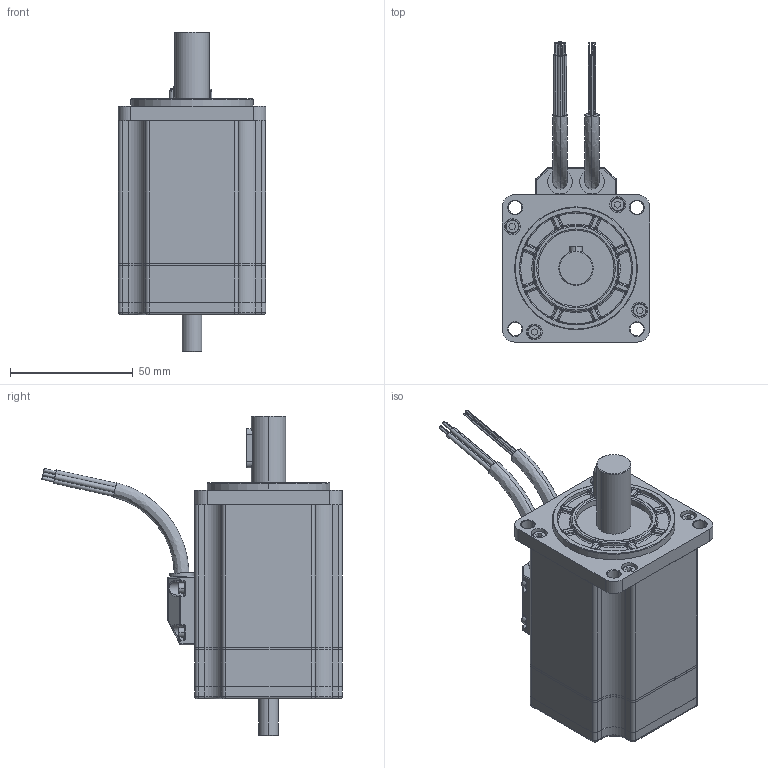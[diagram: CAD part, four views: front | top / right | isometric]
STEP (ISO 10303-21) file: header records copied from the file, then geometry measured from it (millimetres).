
FILE_DESCRIPTION (( 'STEP AP214' ), '1' );
FILE_NAME ('BLK241.STEP', '2021-12-09T16:28:05', ( '' ), ( '' ), 'SwSTEP 2.0', 'SolidWorks 2020', '' );
FILE_SCHEMA (( 'AUTOMOTIVE_DESIGN' ));
Length unit declared in the file: millimetre
Products named in the file (1): BLK241
Bounding box: 60 x 122.26 x 130 mm (x, y, z)
Volume: 289066 mm3; surface area: 34176.7 mm2
Topology: 1 solids, 1 shells, 798 faces, 1894 edges, 1107 vertices
Faces by surface type: cylinder 301, plane 216, torus 165, bspline 60, cone 34, sphere 22
Entity records: 33303 total; most frequent: CARTESIAN_POINT 6120, DIRECTION 4164, ORIENTED_EDGE 3702, EDGE_CURVE 1851, AXIS2_PLACEMENT_3D 1702, VERTEX_POINT 1106, CIRCLE 963, EDGE_LOOP 857
